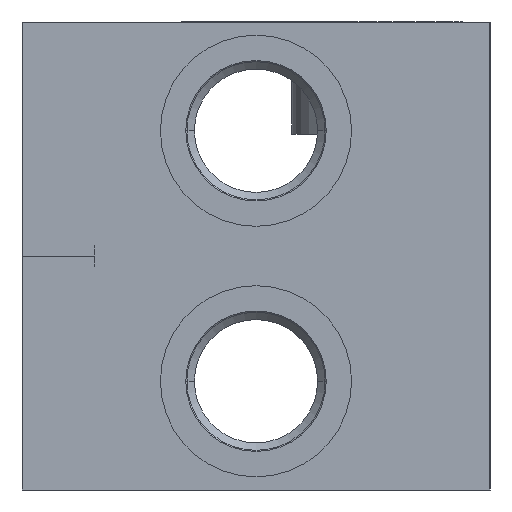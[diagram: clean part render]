
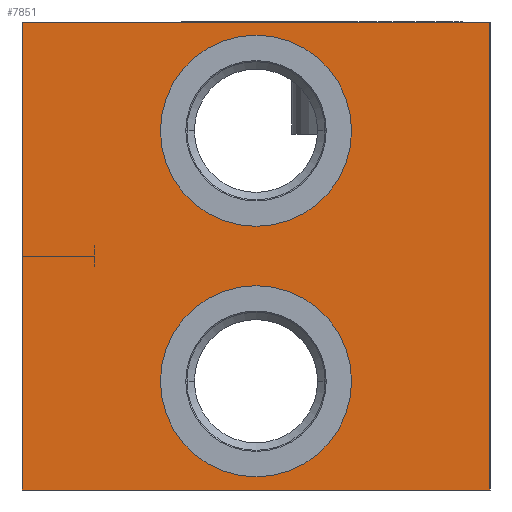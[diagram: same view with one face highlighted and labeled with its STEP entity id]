
A CAD part, left-side view. The second image highlights one B-rep face of the part: STEP entity #7851.
In plain terms, the highlighted planar face has unit normal (-1, 0, 0).
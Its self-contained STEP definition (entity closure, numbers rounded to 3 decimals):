
#30=DIRECTION('',(0.,-1.,0.));
#31=VECTOR('',#30,71.);
#32=CARTESIAN_POINT('',(0.,71.,0.));
#33=LINE('',#32,#31);
#259=DIRECTION('',(0.,0.,-1.));
#260=VECTOR('',#259,71.);
#261=CARTESIAN_POINT('',(0.,0.,0.));
#262=LINE('',#261,#260);
#1726=DIRECTION('',(0.,0.,-1.));
#1727=VECTOR('',#1726,71.);
#1728=CARTESIAN_POINT('',(0.,71.,0.));
#1729=LINE('',#1728,#1727);
#1733=CARTESIAN_POINT('',(0.,35.5,-54.5));
#1734=DIRECTION('',(1.,0.,0.));
#1735=DIRECTION('',(0.,-1.,0.));
#1736=AXIS2_PLACEMENT_3D('',#1733,#1734,#1735);
#1741=CARTESIAN_POINT('',(0.,35.5,-54.5));
#1742=DIRECTION('',(1.,0.,0.));
#1743=DIRECTION('',(0.,1.,0.));
#1744=AXIS2_PLACEMENT_3D('',#1741,#1742,#1743);
#1749=CARTESIAN_POINT('',(0.,35.5,-16.5));
#1750=DIRECTION('',(1.,0.,0.));
#1751=DIRECTION('',(0.,-1.,0.));
#1752=AXIS2_PLACEMENT_3D('',#1749,#1750,#1751);
#1757=CARTESIAN_POINT('',(0.,35.5,-16.5));
#1758=DIRECTION('',(1.,0.,0.));
#1759=DIRECTION('',(0.,1.,0.));
#1760=AXIS2_PLACEMENT_3D('',#1757,#1758,#1759);
#1786=DIRECTION('',(0.,-1.,0.));
#1787=VECTOR('',#1786,71.);
#1788=CARTESIAN_POINT('',(0.,71.,-71.));
#1789=LINE('',#1788,#1787);
#6576=CARTESIAN_POINT('',(0.,0.,0.));
#6578=VERTEX_POINT('',#6576);
#6582=CARTESIAN_POINT('',(0.,71.,0.));
#6583=VERTEX_POINT('',#6582);
#6584=CARTESIAN_POINT('',(0.,0.,-71.));
#6586=VERTEX_POINT('',#6584);
#6590=CARTESIAN_POINT('',(0.,71.,-71.));
#6591=VERTEX_POINT('',#6590);
#6620=CARTESIAN_POINT('',(0.,21.,-54.5));
#6621=CARTESIAN_POINT('',(0.,50.,-54.5));
#6622=VERTEX_POINT('',#6620);
#6623=VERTEX_POINT('',#6621);
#6636=CARTESIAN_POINT('',(0.,21.,-16.5));
#6637=CARTESIAN_POINT('',(0.,50.,-16.5));
#6638=VERTEX_POINT('',#6636);
#6639=VERTEX_POINT('',#6637);
#7827=CARTESIAN_POINT('',(0.,71.,0.));
#7828=DIRECTION('',(-1.,0.,0.));
#7829=DIRECTION('',(0.,-1.,0.));
#7830=AXIS2_PLACEMENT_3D('',#7827,#7828,#7829);
#7831=PLANE('',#7830);
#7832=ORIENTED_EDGE('',*,*,#7363,.T.);
#7833=ORIENTED_EDGE('',*,*,#7467,.T.);
#7835=ORIENTED_EDGE('',*,*,#7834,.F.);
#7836=ORIENTED_EDGE('',*,*,#7554,.F.);
#7837=EDGE_LOOP('',(#7832,#7833,#7835,#7836));
#7838=FACE_OUTER_BOUND('',#7837,.F.);
#7840=ORIENTED_EDGE('',*,*,#7839,.F.);
#7842=ORIENTED_EDGE('',*,*,#7841,.F.);
#7843=EDGE_LOOP('',(#7840,#7842));
#7844=FACE_BOUND('',#7843,.F.);
#7846=ORIENTED_EDGE('',*,*,#7845,.F.);
#7848=ORIENTED_EDGE('',*,*,#7847,.F.);
#7849=EDGE_LOOP('',(#7846,#7848));
#7850=FACE_BOUND('',#7849,.F.);
#1737=CIRCLE('',#1736,14.5);
#1745=CIRCLE('',#1744,14.5);
#1753=CIRCLE('',#1752,14.5);
#1761=CIRCLE('',#1760,14.5);
#7363=EDGE_CURVE('',#6583,#6578,#33,.T.);
#7467=EDGE_CURVE('',#6578,#6586,#262,.T.);
#7554=EDGE_CURVE('',#6583,#6591,#1729,.T.);
#7834=EDGE_CURVE('',#6591,#6586,#1789,.T.);
#7839=EDGE_CURVE('',#6622,#6623,#1737,.T.);
#7841=EDGE_CURVE('',#6623,#6622,#1745,.T.);
#7845=EDGE_CURVE('',#6638,#6639,#1753,.T.);
#7847=EDGE_CURVE('',#6639,#6638,#1761,.T.);
#7851=ADVANCED_FACE('',(#7838,#7844,#7850),#7831,.T.);
